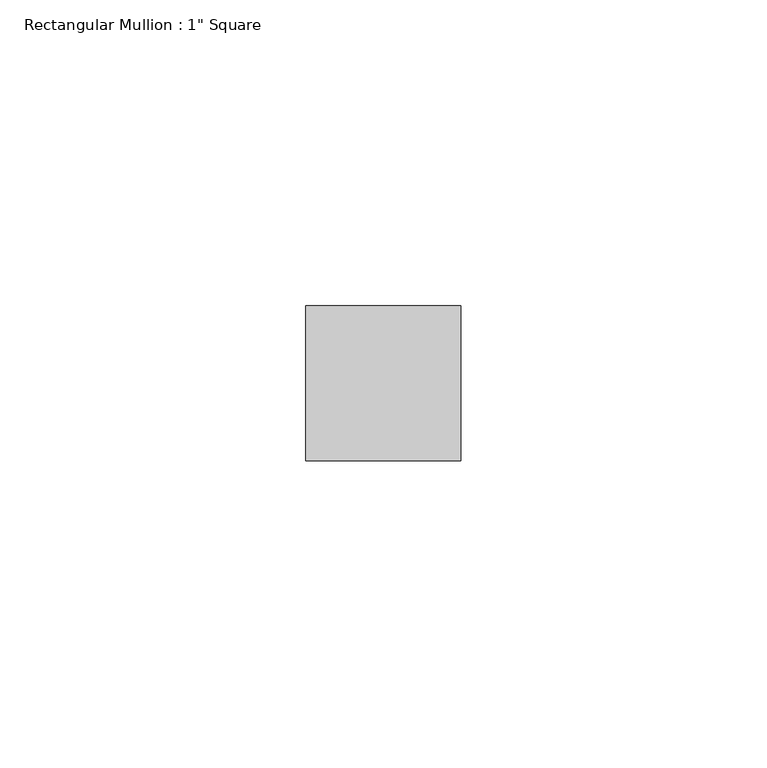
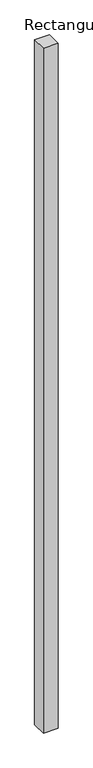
"""IFC4 building model written with IfcOpenShell, lengths in millimetres: member geometry."""

from ifc_helpers import new_model, si_unit, frame, origin, place, context, project, spatial, polyline, outline, extrude, source, transform, mapped, element, save


def member_d0141056(model_context):
    return source(origin(), model_context, "Body", "SweptSolid", [
        extrude(outline(polyline([(12.7, 12.7), (12.7, -12.7), (-12.7, -12.7), (-12.7, 12.7), (12.7, 12.7)])), frame((0.0, 0.0, -1230.8455548), z_axis=(0.0, 0.0, 1.0), x_axis=(1.0, 0.0, 0.0)), (0.0, 0.0, 1.0), 1230.8455548),
    ])


if __name__ == "__main__":
    model = new_model("IFC4")
    model_context = context("Model", 3, world=origin())
    ifc_project = project(units=[si_unit("LENGTHUNIT", "METRE", prefix="MILLI")], contexts=[model_context])
    site = spatial("IfcSite", under=ifc_project)
    building = spatial("IfcBuilding", under=site)
    placement = place(None, origin())
    member_shape = member_d0141056(model_context)
    element("IfcMember", 1, ObjectType="Rectangular Mullion : 1\" Square", at=placement, inside=building, context=model_context, shape_type="MappedRepresentation", body=[
        mapped(member_shape, transform((0.0, 0.0, 0.0), x_axis=(1.0, 0.0, 0.0), y_axis=(0.0, 1.0, 0.0), z_axis=(0.0, 0.0, 1.0))),
    ])
    save(model, "model.ifc")
